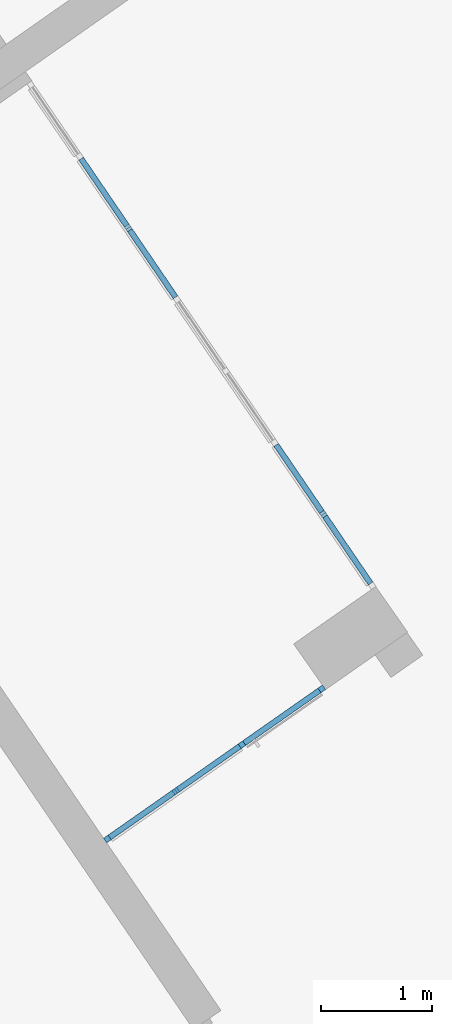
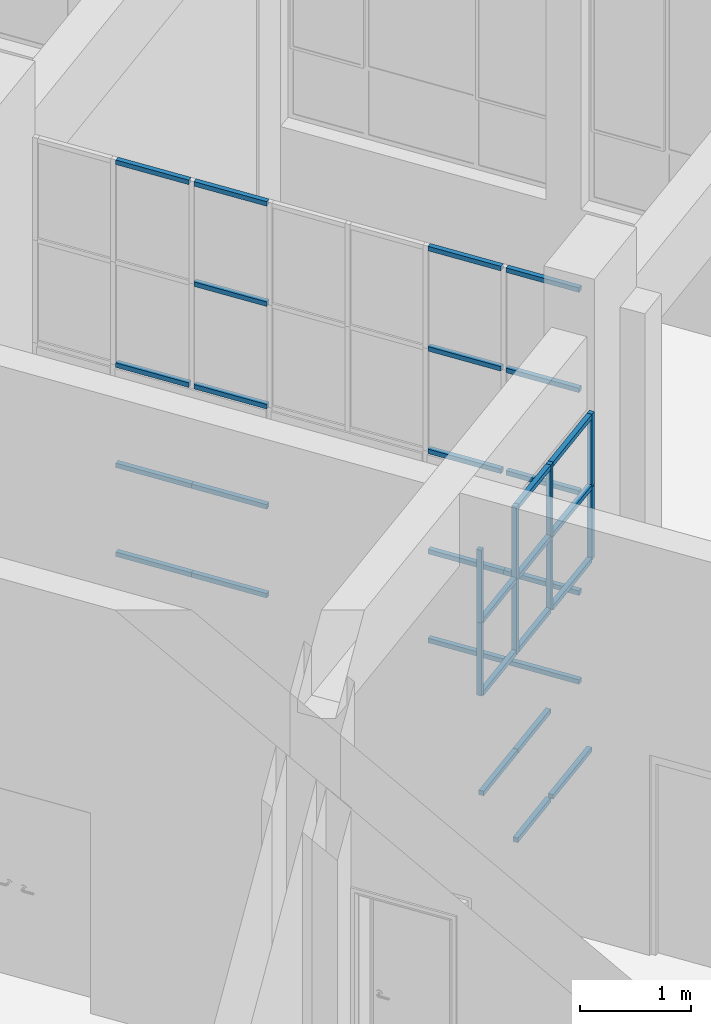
# One storey, part 34 of 157: 39 members, 2 elements without a shape of their own.
"""IFC2X3 building model written with IfcOpenShell, lengths in millimetres."""

from ifc_helpers import new_model, entity, si_unit, converted_unit, derived_unit, direction, frame, origin, origin_2d_with_axis, place, context, subcontext, project, spatial, rectangle, extrude, source, transform, mapped, material, type_object, type_shapes, element, aggregate, save


model = new_model("IFC2X3")

# Units and contexts
model_context = context("Model", 3, precision=0.01, world=origin(), true_north=direction((6.123031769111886e-17, 1.0)))
body_context = subcontext(model_context, "Body", "Model", "MODEL_VIEW")
ifc_project = project(units=[si_unit("LENGTHUNIT", "METRE", prefix="MILLI"), si_unit("AREAUNIT", "SQUARE_METRE"), si_unit("VOLUMEUNIT", "CUBIC_METRE"), converted_unit("PLANEANGLEUNIT", "DEGREE", entity("IfcRatioMeasure", 0.017453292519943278), si_unit("PLANEANGLEUNIT", "RADIAN"), dimensions=[0, 0, 0, 0, 0, 0, 0]), si_unit("MASSUNIT", "GRAM", prefix="KILO"), derived_unit("MASSDENSITYUNIT", [(si_unit("MASSUNIT", "GRAM", prefix="KILO"), 1), (si_unit("LENGTHUNIT", "METRE"), -3)]), derived_unit("MOMENTOFINERTIAUNIT", [(si_unit("LENGTHUNIT", "METRE"), 4)]), si_unit("TIMEUNIT", "SECOND"), si_unit("FREQUENCYUNIT", "HERTZ"), si_unit("THERMODYNAMICTEMPERATUREUNIT", "DEGREE_CELSIUS"), derived_unit("THERMALTRANSMITTANCEUNIT", [(si_unit("MASSUNIT", "GRAM", prefix="KILO"), 1), (si_unit("THERMODYNAMICTEMPERATUREUNIT", "KELVIN"), -1), (si_unit("TIMEUNIT", "SECOND"), -3)]), derived_unit("THERMALCONDUCTANCEUNIT", [(si_unit("MASSUNIT", "GRAM", prefix="KILO"), 1), (si_unit("LENGTHUNIT", "METRE"), 1), (si_unit("THERMODYNAMICTEMPERATUREUNIT", "KELVIN"), -1), (si_unit("TIMEUNIT", "SECOND"), -3)]), derived_unit("VOLUMETRICFLOWRATEUNIT", [(si_unit("LENGTHUNIT", "METRE"), 3), (si_unit("TIMEUNIT", "SECOND"), -1)]), derived_unit("MASSFLOWRATEUNIT", [(si_unit("MASSUNIT", "GRAM", prefix="KILO"), 1), (si_unit("TIMEUNIT", "SECOND"), -1)]), derived_unit("ROTATIONALFREQUENCYUNIT", [(si_unit("TIMEUNIT", "SECOND"), -1)]), si_unit("ELECTRICCURRENTUNIT", "AMPERE"), si_unit("ELECTRICVOLTAGEUNIT", "VOLT"), si_unit("POWERUNIT", "WATT"), converted_unit("FORCEUNIT", "KIP", entity("IfcRatioMeasure", 2.088543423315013e-05), si_unit("FORCEUNIT", "NEWTON"), dimensions=[1, 1, -2, 0, 0, 0, 0]), si_unit("ILLUMINANCEUNIT", "LUX"), si_unit("LUMINOUSFLUXUNIT", "LUMEN"), si_unit("LUMINOUSINTENSITYUNIT", "CANDELA"), derived_unit("USERDEFINED", [(si_unit("MASSUNIT", "GRAM", prefix="KILO"), -1), (si_unit("LENGTHUNIT", "METRE"), -2), (si_unit("TIMEUNIT", "SECOND"), 3), (si_unit("LUMINOUSFLUXUNIT", "LUMEN"), 1)]), derived_unit("USERDEFINED", [(si_unit("MASSUNIT", "GRAM", prefix="KILO"), 1), (si_unit("LENGTHUNIT", "METRE"), 3), (si_unit("TIMEUNIT", "SECOND"), -3), (si_unit("ELECTRICCURRENTUNIT", "AMPERE"), -2)]), derived_unit("USERDEFINED", [(si_unit("LENGTHUNIT", "METRE"), 2), (si_unit("TIMEUNIT", "SECOND"), -2)]), derived_unit("SOUNDPOWERUNIT", [(si_unit("MASSUNIT", "GRAM", prefix="KILO"), 1), (si_unit("LENGTHUNIT", "METRE"), 2), (si_unit("TIMEUNIT", "SECOND"), -3)]), derived_unit("SOUNDPRESSUREUNIT", [(si_unit("MASSUNIT", "GRAM", prefix="KILO"), 1), (si_unit("LENGTHUNIT", "METRE"), -1), (si_unit("TIMEUNIT", "SECOND"), -2)]), derived_unit("LINEARVELOCITYUNIT", [(si_unit("LENGTHUNIT", "METRE"), 1), (si_unit("TIMEUNIT", "SECOND"), -1)]), si_unit("PRESSUREUNIT", "PASCAL"), derived_unit("USERDEFINED", [(si_unit("LENGTHUNIT", "METRE"), -2), (si_unit("MASSUNIT", "GRAM", prefix="KILO"), 1), (si_unit("TIMEUNIT", "SECOND"), -2)]), derived_unit("LINEARFORCEUNIT", [(si_unit("MASSUNIT", "GRAM", prefix="KILO"), 1), (si_unit("LENGTHUNIT", "METRE"), 1), (si_unit("TIMEUNIT", "SECOND"), -2), (si_unit("LENGTHUNIT", "METRE"), -1)]), derived_unit("PLANARFORCEUNIT", [(si_unit("MASSUNIT", "GRAM", prefix="KILO"), 1), (si_unit("LENGTHUNIT", "METRE"), 1), (si_unit("TIMEUNIT", "SECOND"), -2), (si_unit("LENGTHUNIT", "METRE"), -2)]), derived_unit("SPECIFICHEATCAPACITYUNIT", [(si_unit("LENGTHUNIT", "METRE"), 2), (si_unit("TIMEUNIT", "SECOND"), -2), (si_unit("THERMODYNAMICTEMPERATUREUNIT", "KELVIN"), -1)]), derived_unit("VAPORPERMEABILITYUNIT", [(si_unit("TIMEUNIT", "SECOND"), 1), (si_unit("LENGTHUNIT", "METRE"), -1)]), derived_unit("DYNAMICVISCOSITYUNIT", [(si_unit("MASSUNIT", "GRAM", prefix="KILO"), 1), (si_unit("LENGTHUNIT", "METRE"), -1), (si_unit("TIMEUNIT", "SECOND"), -1)]), derived_unit("THERMALEXPANSIONCOEFFICIENTUNIT", [(si_unit("THERMODYNAMICTEMPERATUREUNIT", "KELVIN"), -1)])], contexts=[model_context])

# Site, building, storey
site_placement = place(None, frame((0.0, 0.0, 0.0), z_axis=(0.0, 0.0, 1.0), x_axis=(0.8191520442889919, 0.5735764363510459, 0.0)))
site = spatial("IfcSite", under=ifc_project, at=site_placement, Name="Default", CompositionType="ELEMENT")
building_placement = place(site_placement, origin())
building = spatial("IfcBuilding", under=site, at=building_placement, CompositionType="ELEMENT")
storey_placement = place(building_placement, origin())
storey = spatial("IfcBuildingStorey", under=building, at=storey_placement, Name="1.EG +0.00", CompositionType="ELEMENT", Elevation=-4.331468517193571e-12)

# Curtain wall, members
curtain_wall_type = type_object("IfcCurtainWallType", Name="Curtain Wall:Curtain_Wall_CJC_Int5", PredefinedType="NOTDEFINED")
curtain_wall_1_placement = place(storey_placement, origin())
curtain_wall_1 = element("IfcCurtainWall", 1, at=curtain_wall_1_placement, inside=storey, type_object=curtain_wall_type, Name="Curtain Wall:Curtain_Wall_CJC_Int5", ObjectType="Curtain Wall:Curtain_Wall_CJC_Int5")
ifc_material = material(Name="Aluminium")
member_type_1 = type_object("IfcMemberType", Name="Rectangular Mullion:5x5", PredefinedType="MULLION", material=ifc_material)
shared_shape_1 = source(origin(), body_context, "Body", "SweptSolid", [
    extrude(rectangle(XDim=50.000000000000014, YDim=50.0, at=origin_2d_with_axis()), frame((-25.0, 0.0, -677.0676777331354), z_axis=(0.0, 0.0, 1.0), x_axis=(0.0, -1.0, 0.0)), (0.0, 0.0, 1.0), 677.0676777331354),
])
type_shapes(member_type_1, [shared_shape_1])
member_1_placement = place(curtain_wall_1_placement, frame((-212588.6355139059, 145771.35891435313, 3700.0), z_axis=(-1.0, 0.0, 0.0), x_axis=(0.0, 0.0, 1.0)))
member_1 = element("IfcMember", 2, at=member_1_placement, type_object=member_type_1, material=ifc_material, Name="Rectangular Mullion:5x5", ObjectType="Rectangular Mullion:5x5", context=body_context, shape_type="MappedRepresentation", body=[
    mapped(shared_shape_1, transform((0.0, 0.0, 0.0), scale=1.0)),
])
member_type_2 = type_object("IfcMemberType", Name="Rectangular Mullion:5x5", PredefinedType="MULLION", material=ifc_material)
shared_shape_2 = source(origin(), body_context, "Body", "SweptSolid", [
    extrude(rectangle(XDim=50.0, YDim=50.0, at=origin_2d_with_axis()), frame((-25.0, 0.0, -825.0), z_axis=(0.0, 0.0, 1.0), x_axis=(0.0, -1.0, 0.0)), (0.0, 0.0, 1.0), 825.0),
])
type_shapes(member_type_2, [shared_shape_2])
member_2_placement = place(curtain_wall_1_placement, frame((-211036.56385903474, 145771.35891435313, 0.0), z_axis=(1.0, 0.0, 0.0), x_axis=(0.0, 0.0, -1.0)))
member_2 = element("IfcMember", 3, at=member_2_placement, type_object=member_type_2, material=ifc_material, Name="Rectangular Mullion:5x5", ObjectType="Rectangular Mullion:5x5", context=body_context, shape_type="MappedRepresentation", body=[
    mapped(shared_shape_2, transform((0.0, 0.0, 0.0), scale=1.0)),
])
member_type_3 = type_object("IfcMemberType", Name="Rectangular Mullion:5x5", PredefinedType="MULLION", material=ifc_material)
shared_shape_3 = source(origin(), body_context, "Body", "SweptSolid", [
    extrude(rectangle(XDim=50.0, YDim=50.0, at=origin_2d_with_axis()), frame((0.0, 0.0, -701.0338390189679), z_axis=(0.0, 0.0, 1.0), x_axis=(0.0, -1.0, 0.0)), (0.0, 0.0, 1.0), 701.0338390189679),
])
type_shapes(member_type_3, [shared_shape_3])
member_3_placement = place(curtain_wall_1_placement, frame((-213339.67134149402, 145771.35891435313, 2100.0), z_axis=(-1.0, 0.0, 0.0), x_axis=(0.0, 0.0, 1.0)))
member_3 = element("IfcMember", 4, at=member_3_placement, type_object=member_type_3, material=ifc_material, Name="Rectangular Mullion:5x5", ObjectType="Rectangular Mullion:5x5", context=body_context, shape_type="MappedRepresentation", body=[
    mapped(shared_shape_3, transform((0.0, 0.0, 0.0), scale=1.0)),
])
member_4_placement = place(curtain_wall_1_placement, frame((-213339.67134149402, 145771.35891435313, 2900.0), z_axis=(-1.0, 0.0, 0.0), x_axis=(0.0, 0.0, 1.0)))
member_4 = element("IfcMember", 5, at=member_4_placement, type_object=member_type_3, material=ifc_material, Name="Rectangular Mullion:5x5", ObjectType="Rectangular Mullion:5x5", context=body_context, shape_type="MappedRepresentation", body=[
    mapped(shared_shape_3, transform((0.0, 0.0, 0.0), scale=1.0)),
])
member_type_4 = type_object("IfcMemberType", Name="Rectangular Mullion:5x5", PredefinedType="MULLION", material=ifc_material)
shared_shape_4 = source(origin(), body_context, "Body", "SweptSolid", [
    extrude(rectangle(XDim=50.0, YDim=50.0, at=origin_2d_with_axis()), frame((0.0, 0.0, -677.0676777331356), z_axis=(0.0, 0.0, 1.0), x_axis=(0.0, -1.0, 0.0)), (0.0, 0.0, 1.0), 677.067677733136),
])
type_shapes(member_type_4, [shared_shape_4])
member_5_placement = place(curtain_wall_1_placement, frame((-212588.6355139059, 145771.35891435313, 2100.0), z_axis=(-1.0, 0.0, 0.0), x_axis=(0.0, 0.0, 1.0)))
member_5 = element("IfcMember", 6, at=member_5_placement, type_object=member_type_4, material=ifc_material, Name="Rectangular Mullion:5x5", ObjectType="Rectangular Mullion:5x5", context=body_context, shape_type="MappedRepresentation", body=[
    mapped(shared_shape_4, transform((0.0, 0.0, 0.0), scale=1.0)),
])
member_6_placement = place(curtain_wall_1_placement, frame((-212588.6355139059, 145771.35891435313, 2900.0), z_axis=(-1.0, 0.0, 0.0), x_axis=(0.0, 0.0, 1.0)))
member_6 = element("IfcMember", 7, at=member_6_placement, type_object=member_type_4, material=ifc_material, Name="Rectangular Mullion:5x5", ObjectType="Rectangular Mullion:5x5", context=body_context, shape_type="MappedRepresentation", body=[
    mapped(shared_shape_4, transform((0.0, 0.0, 0.0), scale=1.0)),
])
member_type_5 = type_object("IfcMemberType", Name="Rectangular Mullion:5x5", PredefinedType="MULLION", material=ifc_material)
shared_shape_5 = source(origin(), body_context, "Body", "SweptSolid", [
    extrude(rectangle(XDim=50.0, YDim=50.0, at=origin_2d_with_axis()), frame((0.0, 0.0, -825.0), z_axis=(0.0, 0.0, 1.0), x_axis=(0.0, -1.0, 0.0)), (0.0, 0.0, 1.0), 825.0),
])
type_shapes(member_type_5, [shared_shape_5])
member_7_placement = place(curtain_wall_1_placement, frame((-211861.56385903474, 145771.35891435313, 2100.0), z_axis=(-1.0, 0.0, 0.0), x_axis=(0.0, 0.0, 1.0)))
member_7 = element("IfcMember", 8, at=member_7_placement, type_object=member_type_5, material=ifc_material, Name="Rectangular Mullion:5x5", ObjectType="Rectangular Mullion:5x5", context=body_context, shape_type="MappedRepresentation", body=[
    mapped(shared_shape_5, transform((0.0, 0.0, 0.0), scale=1.0)),
])
member_8_placement = place(curtain_wall_1_placement, frame((-211861.56385903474, 145771.35891435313, 2900.0), z_axis=(-1.0, 0.0, 0.0), x_axis=(0.0, 0.0, 1.0)))
member_8 = element("IfcMember", 9, at=member_8_placement, type_object=member_type_5, material=ifc_material, Name="Rectangular Mullion:5x5", ObjectType="Rectangular Mullion:5x5", context=body_context, shape_type="MappedRepresentation", body=[
    mapped(shared_shape_5, transform((0.0, 0.0, 0.0), scale=1.0)),
])
member_type_6 = type_object("IfcMemberType", Name="Rectangular Mullion:5x5", PredefinedType="MULLION", material=ifc_material)
shared_shape_6 = source(origin(), body_context, "Body", "SweptSolid", [
    extrude(rectangle(XDim=50.0, YDim=50.0, at=origin_2d_with_axis()), frame((-25.0, 0.0, -825.0), z_axis=(0.0, 0.0, 1.0), x_axis=(0.0, -1.0, 0.0)), (0.0, 0.0, 1.0), 824.9999999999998),
])
type_shapes(member_type_6, [shared_shape_6])
member_9_placement = place(curtain_wall_1_placement, frame((-211861.56385903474, 145771.35891435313, 3700.0), z_axis=(-1.0, 0.0, 0.0), x_axis=(0.0, 0.0, 1.0)))
member_9 = element("IfcMember", 10, at=member_9_placement, type_object=member_type_6, material=ifc_material, Name="Rectangular Mullion:5x5", ObjectType="Rectangular Mullion:5x5", context=body_context, shape_type="MappedRepresentation", body=[
    mapped(shared_shape_6, transform((0.0, 0.0, 0.0), scale=1.0)),
])

curtain_wall_2_placement = place(storey_placement, origin())
curtain_wall_2 = element("IfcCurtainWall", 11, at=curtain_wall_2_placement, inside=storey, type_object=curtain_wall_type, Name="Curtain Wall:Curtain_Wall_CJC_Int5", ObjectType="Curtain Wall:Curtain_Wall_CJC_Int5")
member_type_7 = type_object("IfcMemberType", Name="Rectangular Mullion:5x5", PredefinedType="MULLION", material=ifc_material)
shared_shape_7 = source(origin(), body_context, "Body", "SweptSolid", [
    extrude(rectangle(XDim=50.0, YDim=50.0, at=origin_2d_with_axis()), frame((-25.0, 0.0, -728.6339668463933), z_axis=(0.0, 0.0, 1.0), x_axis=(0.0, -1.0, 0.0)), (0.0, 0.0, 1.0), 728.6339668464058),
])
type_shapes(member_type_7, [shared_shape_7])
member_10_placement = place(curtain_wall_2_placement, frame((-210098.49379355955, 147024.93091162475, 4350.0), z_axis=(0.012616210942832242, 0.9999204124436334, 0.0), x_axis=(0.0, 0.0, 1.0)))
member_10 = element("IfcMember", 12, at=member_10_placement, type_object=member_type_7, material=ifc_material, Name="Rectangular Mullion:5x5", ObjectType="Rectangular Mullion:5x5", context=body_context, shape_type="MappedRepresentation", body=[
    mapped(shared_shape_7, transform((0.0, 0.0, 0.0), scale=1.0)),
])
member_11_placement = place(curtain_wall_2_placement, frame((-210088.67038319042, 147803.50290859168, 4350.0), z_axis=(0.012616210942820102, 0.9999204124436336, 0.0), x_axis=(0.0, 0.0, 1.0)))
member_11 = element("IfcMember", 13, at=member_11_placement, type_object=member_type_7, material=ifc_material, Name="Rectangular Mullion:5x5", ObjectType="Rectangular Mullion:5x5", context=body_context, shape_type="MappedRepresentation", body=[
    mapped(shared_shape_7, transform((0.0, 0.0, 0.0), scale=1.0)),
])
member_12_placement = place(curtain_wall_2_placement, frame((-210059.20015208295, 150139.2188994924, 4350.0), z_axis=(0.012616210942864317, 0.999920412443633, 0.0), x_axis=(0.0, 0.0, 1.0)))
member_12 = element("IfcMember", 14, at=member_12_placement, type_object=member_type_7, material=ifc_material, Name="Rectangular Mullion:5x5", ObjectType="Rectangular Mullion:5x5", context=body_context, shape_type="MappedRepresentation", body=[
    mapped(shared_shape_7, transform((0.0, 0.0, 0.0), scale=1.0)),
])
member_13_placement = place(curtain_wall_2_placement, frame((-210049.37674171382, 150917.79089645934, 4350.0), z_axis=(0.012616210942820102, 0.9999204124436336, 0.0), x_axis=(0.0, 0.0, 1.0)))
member_13 = element("IfcMember", 15, at=member_13_placement, type_object=member_type_7, material=ifc_material, Name="Rectangular Mullion:5x5", ObjectType="Rectangular Mullion:5x5", context=body_context, shape_type="MappedRepresentation", body=[
    mapped(shared_shape_7, transform((0.0, 0.0, 0.0), scale=1.0)),
])
member_type_8 = type_object("IfcMemberType", Name="Rectangular Mullion:5x5", PredefinedType="MULLION", material=ifc_material)
shared_shape_8 = source(origin(), body_context, "Body", "SweptSolid", [
    extrude(rectangle(XDim=50.0, YDim=50.0, at=origin_2d_with_axis()), frame((-25.0, 0.0, -753.6339668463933), z_axis=(0.0, 0.0, 1.0), x_axis=(0.0, -1.0, 0.0)), (0.0, 0.0, 1.0), 753.6339668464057),
])
type_shapes(member_type_8, [shared_shape_8])
member_14_placement = place(curtain_wall_2_placement, frame((-210107.68639338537, 146296.35493497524, 0.0), z_axis=(-0.012616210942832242, -0.9999204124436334, 0.0), x_axis=(0.0, 0.0, -1.0)))
member_14 = element("IfcMember", 16, at=member_14_placement, type_object=member_type_8, material=ifc_material, Name="Rectangular Mullion:5x5", ObjectType="Rectangular Mullion:5x5", context=body_context, shape_type="MappedRepresentation", body=[
    mapped(shared_shape_8, transform((0.0, 0.0, 0.0), scale=1.0)),
])
member_15_placement = place(curtain_wall_2_placement, frame((-210068.39275190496, 149410.64292314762, 0.0), z_axis=(-0.012616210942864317, -0.999920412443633, 0.0), x_axis=(0.0, 0.0, -1.0)))
member_15 = element("IfcMember", 17, at=member_15_placement, type_object=member_type_8, material=ifc_material, Name="Rectangular Mullion:5x5", ObjectType="Rectangular Mullion:5x5", context=body_context, shape_type="MappedRepresentation", body=[
    mapped(shared_shape_8, transform((0.0, 0.0, 0.0), scale=1.0)),
])
member_type_9 = type_object("IfcMemberType", Name="Rectangular Mullion:5x5", PredefinedType="MULLION", material=ifc_material)
shared_shape_9 = source(origin(), body_context, "Body", "SweptSolid", [
    extrude(rectangle(XDim=50.0, YDim=50.0, at=origin_2d_with_axis()), frame((-25.0, 0.0, -753.6339665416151), z_axis=(0.0, 0.0, 1.0), x_axis=(0.0, -1.0, 0.0)), (0.0, 0.0, 1.0), 753.6339665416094),
])
type_shapes(member_type_9, [shared_shape_9])
member_16_placement = place(curtain_wall_2_placement, frame((-210098.17838828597, 147049.92892193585, 0.0), z_axis=(-0.012616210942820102, -0.9999204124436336, 0.0), x_axis=(0.0, 0.0, -1.0)))
member_16 = element("IfcMember", 18, at=member_16_placement, type_object=member_type_9, material=ifc_material, Name="Rectangular Mullion:5x5", ObjectType="Rectangular Mullion:5x5", context=body_context, shape_type="MappedRepresentation", body=[
    mapped(shared_shape_9, transform((0.0, 0.0, 0.0), scale=1.0)),
])
member_17_placement = place(curtain_wall_2_placement, frame((-210058.88474680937, 150164.21690980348, 0.0), z_axis=(-0.012616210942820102, -0.9999204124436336, 0.0), x_axis=(0.0, 0.0, -1.0)))
member_17 = element("IfcMember", 19, at=member_17_placement, type_object=member_type_9, material=ifc_material, Name="Rectangular Mullion:5x5", ObjectType="Rectangular Mullion:5x5", context=body_context, shape_type="MappedRepresentation", body=[
    mapped(shared_shape_9, transform((0.0, 0.0, 0.0), scale=1.0)),
])
member_type_10 = type_object("IfcMemberType", Name="Rectangular Mullion:5x5", PredefinedType="MULLION", material=ifc_material)
shared_shape_10 = source(origin(), body_context, "Body", "SweptSolid", [
    extrude(rectangle(XDim=50.0, YDim=50.0, at=origin_2d_with_axis()), frame((0.0, 0.0, -753.6339668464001), z_axis=(0.0, 0.0, 1.0), x_axis=(0.0, -1.0, 0.0)), (0.0, 0.0, 1.0), 753.6339668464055),
])
type_shapes(member_type_10, [shared_shape_10])
member_18_placement = place(curtain_wall_2_placement, frame((-210098.17838828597, 147049.9289219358, 1000.0), z_axis=(0.012616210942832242, 0.9999204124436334, 0.0), x_axis=(0.0, 0.0, 1.0)))
member_18 = element("IfcMember", 20, at=member_18_placement, type_object=member_type_10, material=ifc_material, Name="Rectangular Mullion:5x5", ObjectType="Rectangular Mullion:5x5", context=body_context, shape_type="MappedRepresentation", body=[
    mapped(shared_shape_10, transform((0.0, 0.0, 0.0), scale=1.0)),
])
member_19_placement = place(curtain_wall_2_placement, frame((-210058.88474680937, 150164.2169098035, 1000.0), z_axis=(0.012616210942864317, 0.999920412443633, 0.0), x_axis=(0.0, 0.0, 1.0)))
member_19 = element("IfcMember", 21, at=member_19_placement, type_object=member_type_10, material=ifc_material, Name="Rectangular Mullion:5x5", ObjectType="Rectangular Mullion:5x5", context=body_context, shape_type="MappedRepresentation", body=[
    mapped(shared_shape_10, transform((0.0, 0.0, 0.0), scale=1.0)),
])
member_type_11 = type_object("IfcMemberType", Name="Rectangular Mullion:5x5", PredefinedType="MULLION", material=ifc_material)
shared_shape_11 = source(origin(), body_context, "Body", "SweptSolid", [
    extrude(rectangle(XDim=50.0, YDim=50.0, at=origin_2d_with_axis()), frame((0.0, 0.0, -753.6339665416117), z_axis=(0.0, 0.0, 1.0), x_axis=(0.0, -1.0, 0.0)), (0.0, 0.0, 1.0), 753.6339665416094),
])
type_shapes(member_type_11, [shared_shape_11])
member_20_placement = place(curtain_wall_2_placement, frame((-210088.67038319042, 147803.50290859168, 1000.0), z_axis=(0.012616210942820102, 0.9999204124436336, 0.0), x_axis=(0.0, 0.0, 1.0)))
member_20 = element("IfcMember", 22, at=member_20_placement, type_object=member_type_11, material=ifc_material, Name="Rectangular Mullion:5x5", ObjectType="Rectangular Mullion:5x5", context=body_context, shape_type="MappedRepresentation", body=[
    mapped(shared_shape_11, transform((0.0, 0.0, 0.0), scale=1.0)),
])
member_21_placement = place(curtain_wall_2_placement, frame((-210049.37674171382, 150917.79089645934, 1000.0), z_axis=(0.012616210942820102, 0.9999204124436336, 0.0), x_axis=(0.0, 0.0, 1.0)))
member_21 = element("IfcMember", 23, at=member_21_placement, type_object=member_type_11, material=ifc_material, Name="Rectangular Mullion:5x5", ObjectType="Rectangular Mullion:5x5", context=body_context, shape_type="MappedRepresentation", body=[
    mapped(shared_shape_11, transform((0.0, 0.0, 0.0), scale=1.0)),
])
member_type_12 = type_object("IfcMemberType", Name="Rectangular Mullion:5x5", PredefinedType="MULLION", material=ifc_material)
shared_shape_12 = source(origin(), body_context, "Body", "SweptSolid", [
    extrude(rectangle(XDim=50.0, YDim=50.0, at=origin_2d_with_axis()), frame((0.0, 0.0, -728.6339668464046), z_axis=(0.0, 0.0, 1.0), x_axis=(0.0, -1.0, 0.0)), (0.0, 0.0, 1.0), 728.6339668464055),
])
type_shapes(member_type_12, [shared_shape_12])
member_22_placement = place(curtain_wall_2_placement, frame((-210098.49379355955, 147024.93091162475, 2100.0), z_axis=(0.012616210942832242, 0.9999204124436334, 0.0), x_axis=(0.0, 0.0, 1.0)))
member_22 = element("IfcMember", 24, at=member_22_placement, type_object=member_type_12, material=ifc_material, Name="Rectangular Mullion:5x5", ObjectType="Rectangular Mullion:5x5", context=body_context, shape_type="MappedRepresentation", body=[
    mapped(shared_shape_12, transform((0.0, 0.0, 0.0), scale=1.0)),
])
member_23_placement = place(curtain_wall_2_placement, frame((-210088.67038319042, 147803.50290859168, 2100.0), z_axis=(0.012616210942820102, 0.9999204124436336, 0.0), x_axis=(0.0, 0.0, 1.0)))
member_23 = element("IfcMember", 25, at=member_23_placement, type_object=member_type_12, material=ifc_material, Name="Rectangular Mullion:5x5", ObjectType="Rectangular Mullion:5x5", context=body_context, shape_type="MappedRepresentation", body=[
    mapped(shared_shape_12, transform((0.0, 0.0, 0.0), scale=1.0)),
])
member_24_placement = place(curtain_wall_2_placement, frame((-210059.20015208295, 150139.2188994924, 2100.0), z_axis=(0.012616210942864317, 0.999920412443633, 0.0), x_axis=(0.0, 0.0, 1.0)))
member_24 = element("IfcMember", 26, at=member_24_placement, type_object=member_type_12, material=ifc_material, Name="Rectangular Mullion:5x5", ObjectType="Rectangular Mullion:5x5", context=body_context, shape_type="MappedRepresentation", body=[
    mapped(shared_shape_12, transform((0.0, 0.0, 0.0), scale=1.0)),
])
member_25_placement = place(curtain_wall_2_placement, frame((-210098.49379355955, 147024.93091162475, 3225.0), z_axis=(0.012616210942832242, 0.9999204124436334, 0.0), x_axis=(0.0, 0.0, 1.0)))
member_25 = element("IfcMember", 27, at=member_25_placement, type_object=member_type_12, material=ifc_material, Name="Rectangular Mullion:5x5", ObjectType="Rectangular Mullion:5x5", context=body_context, shape_type="MappedRepresentation", body=[
    mapped(shared_shape_12, transform((0.0, 0.0, 0.0), scale=1.0)),
])
member_26_placement = place(curtain_wall_2_placement, frame((-210088.67038319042, 147803.50290859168, 3225.0), z_axis=(0.012616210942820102, 0.9999204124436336, 0.0), x_axis=(0.0, 0.0, 1.0)))
member_26 = element("IfcMember", 28, at=member_26_placement, type_object=member_type_12, material=ifc_material, Name="Rectangular Mullion:5x5", ObjectType="Rectangular Mullion:5x5", context=body_context, shape_type="MappedRepresentation", body=[
    mapped(shared_shape_12, transform((0.0, 0.0, 0.0), scale=1.0)),
])
member_27_placement = place(curtain_wall_2_placement, frame((-210059.20015208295, 150139.2188994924, 3225.0), z_axis=(0.012616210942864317, 0.999920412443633, 0.0), x_axis=(0.0, 0.0, 1.0)))
member_27 = element("IfcMember", 29, at=member_27_placement, type_object=member_type_12, material=ifc_material, Name="Rectangular Mullion:5x5", ObjectType="Rectangular Mullion:5x5", context=body_context, shape_type="MappedRepresentation", body=[
    mapped(shared_shape_12, transform((0.0, 0.0, 0.0), scale=1.0)),
])
member_28_placement = place(curtain_wall_2_placement, frame((-210049.37674171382, 150917.79089645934, 2100.0), z_axis=(0.012616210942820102, 0.9999204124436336, 0.0), x_axis=(0.0, 0.0, 1.0)))
member_28 = element("IfcMember", 30, at=member_28_placement, type_object=member_type_12, material=ifc_material, Name="Rectangular Mullion:5x5", ObjectType="Rectangular Mullion:5x5", context=body_context, shape_type="MappedRepresentation", body=[
    mapped(shared_shape_12, transform((0.0, 0.0, 0.0), scale=1.0)),
])
aggregate(curtain_wall_2, [member_14, member_10, member_11, member_16, member_15, member_18, member_20, member_19, member_22, member_23, member_24, member_25, member_26, member_27, member_12, member_13, member_17, member_21, member_28])

# Member
member_type_13 = type_object("IfcMemberType", Name="Rectangular Mullion:5x5", PredefinedType="MULLION", material=ifc_material)
shared_shape_13 = source(origin(), body_context, "Body", "SweptSolid", [
    extrude(rectangle(XDim=50.0, YDim=50.0, at=origin_2d_with_axis()), frame((-25.0, 0.0, -800.0), z_axis=(0.0, 0.0, 1.0), x_axis=(0.0, -1.0, 0.0)), (0.0, 0.0, 1.0), 800.0),
])
type_shapes(member_type_13, [shared_shape_13])
member_29_placement = place(curtain_wall_1_placement, frame((-210986.56385903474, 145771.35891435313, 3700.0)))
member_29 = element("IfcMember", 31, at=member_29_placement, type_object=member_type_13, material=ifc_material, Name="Rectangular Mullion:5x5", ObjectType="Rectangular Mullion:5x5", context=body_context, shape_type="MappedRepresentation", body=[
    mapped(shared_shape_13, transform((0.0, 0.0, 0.0), scale=1.0)),
])

member_type_14 = type_object("IfcMemberType", Name="Rectangular Mullion:5x5", PredefinedType="MULLION", material=ifc_material)
shared_shape_14 = source(origin(), body_context, "Body", "SweptSolid", [
    extrude(rectangle(XDim=50.000000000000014, YDim=50.0, at=origin_2d_with_axis()), frame((-25.0, 0.0, -702.0716548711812), z_axis=(0.0, 0.0, 1.0), x_axis=(0.0, -1.0, 0.0)), (0.0, 0.0, 1.0), 702.0716548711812),
])
type_shapes(member_type_14, [shared_shape_14])
member_30_placement = place(curtain_wall_1_placement, frame((-211911.56385903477, 145771.35891435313, 0.0), z_axis=(1.0, 0.0, 0.0), x_axis=(0.0, 0.0, -1.0)))
member_30 = element("IfcMember", 32, at=member_30_placement, type_object=member_type_14, material=ifc_material, Name="Rectangular Mullion:5x5", ObjectType="Rectangular Mullion:5x5", context=body_context, shape_type="MappedRepresentation", body=[
    mapped(shared_shape_14, transform((0.0, 0.0, 0.0), scale=1.0)),
])

member_type_15 = type_object("IfcMemberType", Name="Rectangular Mullion:5x5", PredefinedType="MULLION", material=ifc_material)
shared_shape_15 = source(origin(), body_context, "Body", "SweptSolid", [
    extrude(rectangle(XDim=50.000000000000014, YDim=50.0, at=origin_2d_with_axis()), frame((-25.0, 0.0, -800.0), z_axis=(0.0, 0.0, 1.0), x_axis=(0.0, -1.0, 0.0)), (0.0, 0.0, 1.0), 800.0000000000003),
])
type_shapes(member_type_15, [shared_shape_15])
member_31_placement = place(curtain_wall_1_placement, frame((-213389.67134149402, 145771.35891435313, 2100.0), z_axis=(0.0, 0.0, -1.0), x_axis=(-1.0, 0.0, 0.0)))
member_31 = element("IfcMember", 33, at=member_31_placement, type_object=member_type_15, material=ifc_material, Name="Rectangular Mullion:5x5", ObjectType="Rectangular Mullion:5x5", context=body_context, shape_type="MappedRepresentation", body=[
    mapped(shared_shape_15, transform((0.0, 0.0, 0.0), scale=1.0)),
])

member_type_16 = type_object("IfcMemberType", Name="Rectangular Mullion:5x5", PredefinedType="MULLION", material=ifc_material)
shared_shape_16 = source(origin(), body_context, "Body", "SweptSolid", [
    extrude(rectangle(XDim=50.0, YDim=50.0, at=origin_2d_with_axis()), frame((-25.0, 0.0, -800.0), z_axis=(0.0, 0.0, 1.0), x_axis=(0.0, -1.0, 0.0)), (0.0, 0.0, 1.0), 800.0),
])
type_shapes(member_type_16, [shared_shape_16])
member_32_placement = place(curtain_wall_1_placement, frame((-213389.67134149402, 145771.35891435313, 2900.0), z_axis=(0.0, 0.0, -1.0), x_axis=(-1.0, 0.0, 0.0)))
member_32 = element("IfcMember", 34, at=member_32_placement, type_object=member_type_16, material=ifc_material, Name="Rectangular Mullion:5x5", ObjectType="Rectangular Mullion:5x5", context=body_context, shape_type="MappedRepresentation", body=[
    mapped(shared_shape_16, transform((0.0, 0.0, 0.0), scale=1.0)),
])

member_type_17 = type_object("IfcMemberType", Name="Rectangular Mullion:5x5", PredefinedType="MULLION", material=ifc_material)
shared_shape_17 = source(origin(), body_context, "Body", "SweptSolid", [
    extrude(rectangle(XDim=50.000000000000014, YDim=50.0, at=origin_2d_with_axis()), frame((-25.0, 0.0, -800.0), z_axis=(0.0, 0.0, 1.0), x_axis=(0.0, -1.0, 0.0)), (0.0, 0.0, 1.0), 800.0),
])
type_shapes(member_type_17, [shared_shape_17])
member_33_placement = place(curtain_wall_1_placement, frame((-210986.56385903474, 145771.35891435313, 2900.0)))
member_33 = element("IfcMember", 35, at=member_33_placement, type_object=member_type_17, material=ifc_material, Name="Rectangular Mullion:5x5", ObjectType="Rectangular Mullion:5x5", context=body_context, shape_type="MappedRepresentation", body=[
    mapped(shared_shape_17, transform((0.0, 0.0, 0.0), scale=1.0)),
])

member_type_18 = type_object("IfcMemberType", Name="Rectangular Mullion:5x5", PredefinedType="MULLION", material=ifc_material)
shared_shape_18 = source(origin(), body_context, "Body", "SweptSolid", [
    extrude(rectangle(XDim=50.0, YDim=50.0, at=origin_2d_with_axis()), frame((0.0, 0.0, -702.0716548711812), z_axis=(0.0, 0.0, 1.0), x_axis=(0.0, -1.0, 0.0)), (0.0, 0.0, 1.0), 702.0716548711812),
])
type_shapes(member_type_18, [shared_shape_18])
member_34_placement = place(curtain_wall_1_placement, frame((-212613.63551390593, 145771.35891435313, 1000.0), z_axis=(-1.0, 0.0, 0.0), x_axis=(0.0, 0.0, 1.0)))
member_34 = element("IfcMember", 36, at=member_34_placement, type_object=member_type_18, material=ifc_material, Name="Rectangular Mullion:5x5", ObjectType="Rectangular Mullion:5x5", context=body_context, shape_type="MappedRepresentation", body=[
    mapped(shared_shape_18, transform((0.0, 0.0, 0.0), scale=1.0)),
])

member_type_19 = type_object("IfcMemberType", Name="Rectangular Mullion:5x5", PredefinedType="MULLION", material=ifc_material)
shared_shape_19 = source(origin(), body_context, "Body", "SweptSolid", [
    extrude(rectangle(XDim=50.0, YDim=50.0, at=origin_2d_with_axis()), frame((0.0, 0.0, -726.0358275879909), z_axis=(0.0, 0.0, 1.0), x_axis=(0.0, -1.0, 0.0)), (0.0, 0.0, 1.0), 726.0358275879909),
])
type_shapes(member_type_19, [shared_shape_19])
member_35_placement = place(curtain_wall_1_placement, frame((-213339.67134149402, 145771.35891435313, 1000.0), z_axis=(-1.0, 0.0, 0.0), x_axis=(0.0, 0.0, 1.0)))
member_35 = element("IfcMember", 37, at=member_35_placement, type_object=member_type_19, material=ifc_material, Name="Rectangular Mullion:5x5", ObjectType="Rectangular Mullion:5x5", context=body_context, shape_type="MappedRepresentation", body=[
    mapped(shared_shape_19, transform((0.0, 0.0, 0.0), scale=1.0)),
])

member_type_20 = type_object("IfcMemberType", Name="Rectangular Mullion:5x5", PredefinedType="MULLION", material=ifc_material)
shared_shape_20 = source(origin(), body_context, "Body", "SweptSolid", [
    extrude(rectangle(XDim=50.0, YDim=50.0, at=origin_2d_with_axis()), frame((0.0, 0.0, -800.0), z_axis=(0.0, 0.0, 1.0), x_axis=(0.0, -1.0, 0.0)), (0.0, 0.0, 1.0), 800.0000000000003),
])
type_shapes(member_type_20, [shared_shape_20])
member_36_placement = place(curtain_wall_1_placement, frame((-211886.56385903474, 145771.35891435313, 2100.0), z_axis=(0.0, 0.0, -1.0), x_axis=(-1.0, 0.0, 0.0)))
member_36 = element("IfcMember", 38, at=member_36_placement, type_object=member_type_20, material=ifc_material, Name="Rectangular Mullion:5x5", ObjectType="Rectangular Mullion:5x5", context=body_context, shape_type="MappedRepresentation", body=[
    mapped(shared_shape_20, transform((0.0, 0.0, 0.0), scale=1.0)),
])

member_type_21 = type_object("IfcMemberType", Name="Rectangular Mullion:5x5", PredefinedType="MULLION", material=ifc_material)
shared_shape_21 = source(origin(), body_context, "Body", "SweptSolid", [
    extrude(rectangle(XDim=50.0, YDim=50.0, at=origin_2d_with_axis()), frame((0.0, 0.0, -825.0), z_axis=(0.0, 0.0, 1.0), x_axis=(0.0, -1.0, 0.0)), (0.0, 0.0, 1.0), 825.0000000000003),
])
type_shapes(member_type_21, [shared_shape_21])
member_37_placement = place(curtain_wall_1_placement, frame((-212613.63551390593, 145771.35891435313, 2075.0), z_axis=(0.0, 0.0, -1.0), x_axis=(-1.0, 0.0, 0.0)))
member_37 = element("IfcMember", 39, at=member_37_placement, type_object=member_type_21, material=ifc_material, Name="Rectangular Mullion:5x5", ObjectType="Rectangular Mullion:5x5", context=body_context, shape_type="MappedRepresentation", body=[
    mapped(shared_shape_21, transform((0.0, 0.0, 0.0), scale=1.0)),
])

member_type_22 = type_object("IfcMemberType", Name="Rectangular Mullion:5x5", PredefinedType="MULLION", material=ifc_material)
shared_shape_22 = source(origin(), body_context, "Body", "SweptSolid", [
    extrude(rectangle(XDim=50.0, YDim=50.0, at=origin_2d_with_axis()), frame((0.0, 0.0, -800.0), z_axis=(0.0, 0.0, 1.0), x_axis=(0.0, -1.0, 0.0)), (0.0, 0.0, 1.0), 800.0),
])
type_shapes(member_type_22, [shared_shape_22])
member_38_placement = place(curtain_wall_1_placement, frame((-211886.56385903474, 145771.35891435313, 2900.0), z_axis=(0.0, 0.0, -1.0), x_axis=(-1.0, 0.0, 0.0)))
member_38 = element("IfcMember", 40, at=member_38_placement, type_object=member_type_22, material=ifc_material, Name="Rectangular Mullion:5x5", ObjectType="Rectangular Mullion:5x5", context=body_context, shape_type="MappedRepresentation", body=[
    mapped(shared_shape_22, transform((0.0, 0.0, 0.0), scale=1.0)),
])

member_39_placement = place(curtain_wall_1_placement, frame((-212613.63551390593, 145771.35891435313, 2900.0), z_axis=(0.0, 0.0, -1.0), x_axis=(-1.0, 0.0, 0.0)))
member_39 = element("IfcMember", 41, at=member_39_placement, type_object=member_type_22, material=ifc_material, Name="Rectangular Mullion:5x5", ObjectType="Rectangular Mullion:5x5", context=body_context, shape_type="MappedRepresentation", body=[
    mapped(shared_shape_22, transform((0.0, 0.0, 0.0), scale=1.0)),
])

aggregate(curtain_wall_1, [member_2, member_29, member_9, member_1, member_30, member_31, member_32, member_33, member_34, member_35, member_7, member_5, member_3, member_8, member_6, member_4, member_36, member_37, member_38, member_39])

save(model, "model.ifc")
